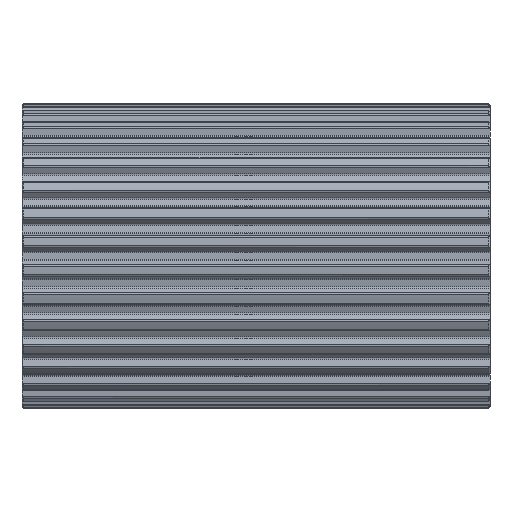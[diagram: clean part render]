
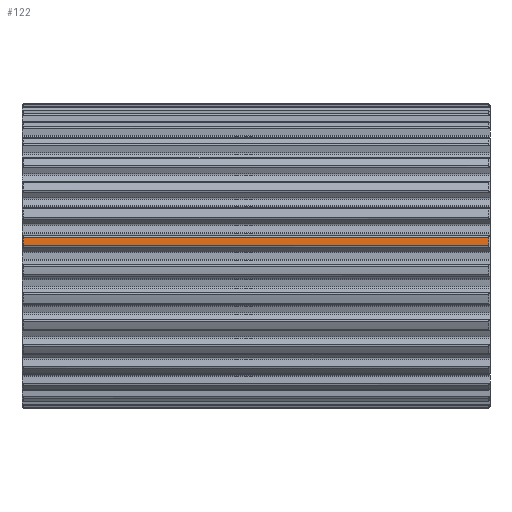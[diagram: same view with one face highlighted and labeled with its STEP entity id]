
A CAD part, front view. The second image highlights one B-rep face of the part: STEP entity #122.
In plain terms, the highlighted cylindrical face has radius 52.02 mm (diameter 104.04 mm), a partial arc.
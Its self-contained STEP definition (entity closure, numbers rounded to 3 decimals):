
#122=ADVANCED_FACE('',(#516),#517,.T.);
#516=FACE_OUTER_BOUND('',#1210,.T.);
#517=CYLINDRICAL_SURFACE('',#1211,52.02);
#1210=EDGE_LOOP('',(#2202,#2203,#2204,#2205));
#1211=AXIS2_PLACEMENT_3D('',#2206,#2207,#2208);
#2202=ORIENTED_EDGE('',*,*,#5117,.T.);
#2203=ORIENTED_EDGE('',*,*,#5118,.T.);
#2204=ORIENTED_EDGE('',*,*,#5119,.T.);
#2205=ORIENTED_EDGE('',*,*,#5120,.T.);
#2206=CARTESIAN_POINT('',(80.0,0.0,0.0));
#2207=DIRECTION('',(1.0,0.0,-0.0));
#2208=DIRECTION('',(0.0,0.095,0.995));
#5117=EDGE_CURVE('',#6345,#6354,#6356,.T.);
#5118=EDGE_CURVE('',#6354,#6357,#6358,.T.);
#5119=EDGE_CURVE('',#6357,#6359,#6360,.T.);
#5120=EDGE_CURVE('',#6359,#6345,#6361,.T.);
#6345=VERTEX_POINT('',#9097);
#6354=VERTEX_POINT('',#9131);
#6356=CIRCLE('',#9140,52.02);
#6357=VERTEX_POINT('',#9141);
#6358=LINE('',#9142,#9143);
#6359=VERTEX_POINT('',#9144);
#6360=CIRCLE('',#9145,52.02);
#6361=LINE('',#9146,#9147);
#9097=CARTESIAN_POINT('',(0.5,-51.617,6.466));
#9131=CARTESIAN_POINT('',(0.5,-51.907,3.42));
#9140=AXIS2_PLACEMENT_3D('',#12083,#12084,#12085);
#9141=CARTESIAN_POINT('',(159.5,-51.907,3.42));
#9142=CARTESIAN_POINT('',(80.0,-51.907,3.42));
#9143=VECTOR('',#12086,1.0);
#9144=CARTESIAN_POINT('',(159.5,-51.617,6.466));
#9145=AXIS2_PLACEMENT_3D('',#12087,#12088,#12089);
#9146=CARTESIAN_POINT('',(80.0,-51.617,6.466));
#9147=VECTOR('',#12090,1.0);
#12083=CARTESIAN_POINT('',(0.5,0.0,0.0));
#12084=DIRECTION('',(1.0,0.0,0.));
#12085=DIRECTION('',(0.,0.095,0.995));
#12086=DIRECTION('',(1.0,0.0,0.0));
#12087=CARTESIAN_POINT('',(159.5,0.0,0.0));
#12088=DIRECTION('',(-1.0,0.0,0.0));
#12089=DIRECTION('',(0.0,0.095,0.995));
#12090=DIRECTION('',(-1.0,0.0,0.0));
